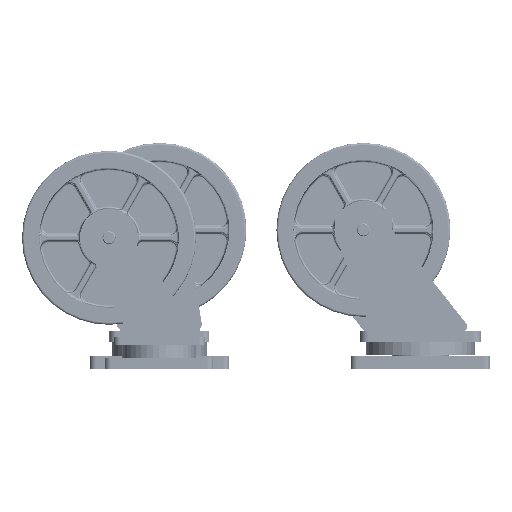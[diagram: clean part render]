
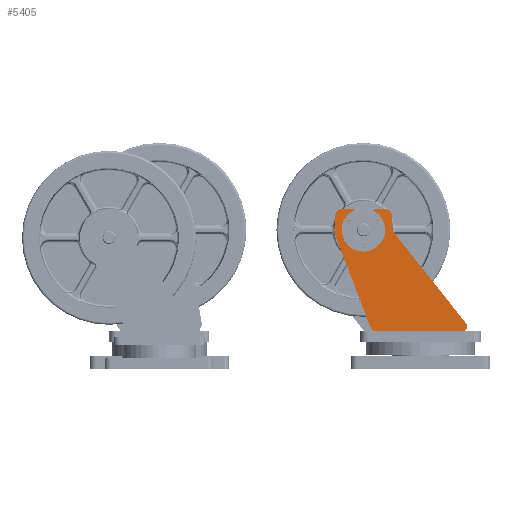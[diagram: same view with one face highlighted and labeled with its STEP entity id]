
A CAD part, left-side view. The second image highlights one B-rep face of the part: STEP entity #5405.
In plain terms, the highlighted planar face has unit normal (-1, 0, 0).
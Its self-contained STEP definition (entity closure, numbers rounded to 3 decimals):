
#2591=FACE_BOUND('',#12141,.T.);
#2592=FACE_BOUND('',#12142,.T.);
#2593=FACE_BOUND('',#12143,.T.);
#2594=FACE_BOUND('',#12144,.T.);
#3551=PLANE('',#51509);
#5405=ADVANCED_FACE('',(#2591,#2592,#2593,#2594),#3551,.T.);
#12141=EDGE_LOOP('',(#25133));
#12142=EDGE_LOOP('',(#25134));
#12143=EDGE_LOOP('',(#25135));
#12144=EDGE_LOOP('',(#25136,#25137,#25138,#25139,#25140,#25141,#25142,#25143,
#25144,#25145,#25146,#25147,#25148,#25149,#25150,#25151,#25152,#25153,#25154));
#15214=CIRCLE('',#51497,3.4);
#15215=CIRCLE('',#51498,3.4);
#15216=CIRCLE('',#51499,3.4);
#15217=CIRCLE('',#51500,10.);
#15218=CIRCLE('',#51501,10.);
#15219=CIRCLE('',#51502,20.);
#15220=CIRCLE('',#51503,15.);
#15221=CIRCLE('',#51504,10.);
#15222=CIRCLE('',#51505,20.2);
#15223=CIRCLE('',#51506,5.);
#15224=CIRCLE('',#51507,15.);
#15225=CIRCLE('',#51508,20.);
#25133=ORIENTED_EDGE('',*,*,#41167,.T.);
#25134=ORIENTED_EDGE('',*,*,#41168,.T.);
#25135=ORIENTED_EDGE('',*,*,#41169,.T.);
#25136=ORIENTED_EDGE('',*,*,#41170,.F.);
#25137=ORIENTED_EDGE('',*,*,#41144,.T.);
#25138=ORIENTED_EDGE('',*,*,#41171,.T.);
#25139=ORIENTED_EDGE('',*,*,#41172,.T.);
#25140=ORIENTED_EDGE('',*,*,#41173,.T.);
#25141=ORIENTED_EDGE('',*,*,#41174,.T.);
#25142=ORIENTED_EDGE('',*,*,#41175,.F.);
#25143=ORIENTED_EDGE('',*,*,#41176,.F.);
#25144=ORIENTED_EDGE('',*,*,#41177,.F.);
#25145=ORIENTED_EDGE('',*,*,#41178,.T.);
#25146=ORIENTED_EDGE('',*,*,#41179,.F.);
#25147=ORIENTED_EDGE('',*,*,#41180,.T.);
#25148=ORIENTED_EDGE('',*,*,#41181,.T.);
#25149=ORIENTED_EDGE('',*,*,#41182,.T.);
#25150=ORIENTED_EDGE('',*,*,#41183,.F.);
#25151=ORIENTED_EDGE('',*,*,#41184,.T.);
#25152=ORIENTED_EDGE('',*,*,#41185,.F.);
#25153=ORIENTED_EDGE('',*,*,#41186,.T.);
#25154=ORIENTED_EDGE('',*,*,#41187,.F.);
#35622=VERTEX_POINT('',#131125);
#35623=VERTEX_POINT('',#131127);
#35644=VERTEX_POINT('',#131173);
#35645=VERTEX_POINT('',#131175);
#35646=VERTEX_POINT('',#131177);
#35647=VERTEX_POINT('',#131179);
#35648=VERTEX_POINT('',#131181);
#35649=VERTEX_POINT('',#131183);
#35650=VERTEX_POINT('',#131185);
#35651=VERTEX_POINT('',#131187);
#35652=VERTEX_POINT('',#131189);
#35653=VERTEX_POINT('',#131191);
#35654=VERTEX_POINT('',#131193);
#35655=VERTEX_POINT('',#131195);
#35656=VERTEX_POINT('',#131197);
#35657=VERTEX_POINT('',#131199);
#35658=VERTEX_POINT('',#131201);
#35659=VERTEX_POINT('',#131203);
#35660=VERTEX_POINT('',#131205);
#35661=VERTEX_POINT('',#131207);
#35662=VERTEX_POINT('',#131209);
#35663=VERTEX_POINT('',#131211);
#41144=EDGE_CURVE('',#35623,#35622,#46223,.T.);
#41167=EDGE_CURVE('',#35644,#35644,#15214,.T.);
#41168=EDGE_CURVE('',#35645,#35645,#15215,.T.);
#41169=EDGE_CURVE('',#35646,#35646,#15216,.T.);
#41170=EDGE_CURVE('',#35623,#35647,#46234,.T.);
#41171=EDGE_CURVE('',#35622,#35648,#15217,.T.);
#41172=EDGE_CURVE('',#35648,#35649,#46235,.T.);
#41173=EDGE_CURVE('',#35649,#35650,#15218,.T.);
#41174=EDGE_CURVE('',#35650,#35651,#46236,.T.);
#41175=EDGE_CURVE('',#35652,#35651,#15219,.T.);
#41176=EDGE_CURVE('',#35653,#35652,#46237,.T.);
#41177=EDGE_CURVE('',#35654,#35653,#15220,.T.);
#41178=EDGE_CURVE('',#35654,#35655,#46238,.T.);
#41179=EDGE_CURVE('',#35656,#35655,#15221,.T.);
#41180=EDGE_CURVE('',#35656,#35657,#46239,.T.);
#41181=EDGE_CURVE('',#35657,#35658,#15222,.T.);
#41182=EDGE_CURVE('',#35658,#35659,#46240,.T.);
#41183=EDGE_CURVE('',#35660,#35659,#15223,.T.);
#41184=EDGE_CURVE('',#35660,#35661,#46241,.T.);
#41185=EDGE_CURVE('',#35662,#35661,#15224,.T.);
#41186=EDGE_CURVE('',#35662,#35663,#46242,.T.);
#41187=EDGE_CURVE('',#35647,#35663,#15225,.T.);
#46223=LINE('',#131126,#48350);
#46234=LINE('',#131178,#48361);
#46235=LINE('',#131182,#48362);
#46236=LINE('',#131186,#48363);
#46237=LINE('',#131190,#48364);
#46238=LINE('',#131194,#48365);
#46239=LINE('',#131198,#48366);
#46240=LINE('',#131202,#48367);
#46241=LINE('',#131206,#48368);
#46242=LINE('',#131210,#48369);
#48350=VECTOR('',#57958,1.);
#48361=VECTOR('',#58003,1.);
#48362=VECTOR('',#58006,1.);
#48363=VECTOR('',#58009,1.);
#48364=VECTOR('',#58012,1.);
#48365=VECTOR('',#58015,1.);
#48366=VECTOR('',#58018,1.);
#48367=VECTOR('',#58021,1.);
#48368=VECTOR('',#58024,1.);
#48369=VECTOR('',#58027,1.);
#51497=AXIS2_PLACEMENT_3D('',#131172,#57997,#57998);
#51498=AXIS2_PLACEMENT_3D('',#131174,#57999,#58000);
#51499=AXIS2_PLACEMENT_3D('',#131176,#58001,#58002);
#51500=AXIS2_PLACEMENT_3D('',#131180,#58004,#58005);
#51501=AXIS2_PLACEMENT_3D('',#131184,#58007,#58008);
#51502=AXIS2_PLACEMENT_3D('',#131188,#58010,#58011);
#51503=AXIS2_PLACEMENT_3D('',#131192,#58013,#58014);
#51504=AXIS2_PLACEMENT_3D('',#131196,#58016,#58017);
#51505=AXIS2_PLACEMENT_3D('',#131200,#58019,#58020);
#51506=AXIS2_PLACEMENT_3D('',#131204,#58022,#58023);
#51507=AXIS2_PLACEMENT_3D('',#131208,#58025,#58026);
#51508=AXIS2_PLACEMENT_3D('',#131212,#58028,#58029);
#51509=AXIS2_PLACEMENT_3D('',#131213,#58030,#58031);
#57958=DIRECTION('',(0.,-0.423,-0.906));
#57997=DIRECTION('',(1.,0.,0.));
#57998=DIRECTION('',(0.,-1.,0.));
#57999=DIRECTION('',(1.,0.,0.));
#58000=DIRECTION('',(0.,-1.,0.));
#58001=DIRECTION('',(1.,0.,0.));
#58002=DIRECTION('',(0.,-1.,0.));
#58003=DIRECTION('',(0.,0.358,0.934));
#58004=DIRECTION('',(-1.,0.,0.));
#58005=DIRECTION('',(0.,0.,1.));
#58006=DIRECTION('',(0.,-1.,0.));
#58007=DIRECTION('',(-1.,0.,0.));
#58008=DIRECTION('',(0.,0.,1.));
#58009=DIRECTION('',(0.,0.623,0.782));
#58010=DIRECTION('',(-1.,0.,0.));
#58011=DIRECTION('',(0.,0.,-1.));
#58012=DIRECTION('',(0.,0.,-1.));
#58013=DIRECTION('',(1.,0.,0.));
#58014=DIRECTION('',(0.,0.,1.));
#58015=DIRECTION('',(0.,1.,0.));
#58016=DIRECTION('',(1.,0.,0.));
#58017=DIRECTION('',(0.,0.,-1.));
#58018=DIRECTION('',(0.,0.,-1.));
#58019=DIRECTION('',(1.,0.,0.));
#58020=DIRECTION('',(0.,0.,-1.));
#58021=DIRECTION('',(0.,0.,1.));
#58022=DIRECTION('',(1.,0.,0.));
#58023=DIRECTION('',(0.,0.,-1.));
#58024=DIRECTION('',(0.,1.,0.));
#58025=DIRECTION('',(1.,0.,0.));
#58026=DIRECTION('',(0.,0.,1.));
#58027=DIRECTION('',(0.,0.,-1.));
#58028=DIRECTION('',(1.,0.,0.));
#58029=DIRECTION('',(0.,0.,-1.));
#58030=DIRECTION('',(-1.,0.,0.));
#58031=DIRECTION('',(0.,1.,0.));
#131125=CARTESIAN_POINT('',(167.99,-236.688,29.774));
#131126=CARTESIAN_POINT('',(167.99,-154.278,206.504));
#131127=CARTESIAN_POINT('',(167.99,-236.539,30.094));
#131172=CARTESIAN_POINT('',(167.99,-252.108,274.75));
#131173=CARTESIAN_POINT('',(167.99,-255.508,274.75));
#131174=CARTESIAN_POINT('',(167.99,-219.632,218.5));
#131175=CARTESIAN_POINT('',(167.99,-223.032,218.5));
#131176=CARTESIAN_POINT('',(167.99,-187.156,274.75));
#131177=CARTESIAN_POINT('',(167.99,-190.556,274.75));
#131178=CARTESIAN_POINT('',(167.99,-158.931,232.755));
#131179=CARTESIAN_POINT('',(167.99,-155.955,240.526));
#131180=CARTESIAN_POINT('',(167.99,-245.751,34.));
#131181=CARTESIAN_POINT('',(167.99,-245.751,24.));
#131182=CARTESIAN_POINT('',(167.99,-219.632,24.));
#131183=CARTESIAN_POINT('',(167.99,-448.637,24.));
#131184=CARTESIAN_POINT('',(167.99,-448.637,34.));
#131185=CARTESIAN_POINT('',(167.99,-456.927,39.592));
#131186=CARTESIAN_POINT('',(167.99,-259.415,287.673));
#131187=CARTESIAN_POINT('',(167.99,-288.985,250.532));
#131188=CARTESIAN_POINT('',(167.99,-304.632,262.989));
#131189=CARTESIAN_POINT('',(167.99,-284.632,262.989));
#131190=CARTESIAN_POINT('',(167.99,-284.632,256.));
#131191=CARTESIAN_POINT('',(167.99,-284.632,288.6));
#131192=CARTESIAN_POINT('',(167.99,-269.632,288.6));
#131193=CARTESIAN_POINT('',(167.99,-269.632,303.6));
#131194=CARTESIAN_POINT('',(167.99,-309.732,303.6));
#131195=CARTESIAN_POINT('',(167.99,-249.832,303.6));
#131196=CARTESIAN_POINT('',(167.99,-249.832,293.6));
#131197=CARTESIAN_POINT('',(167.99,-239.832,293.6));
#131198=CARTESIAN_POINT('',(167.99,-239.832,310.6));
#131199=CARTESIAN_POINT('',(167.99,-239.832,256.));
#131200=CARTESIAN_POINT('',(167.99,-219.632,256.));
#131201=CARTESIAN_POINT('',(167.99,-199.432,256.));
#131202=CARTESIAN_POINT('',(167.99,-199.432,256.));
#131203=CARTESIAN_POINT('',(167.99,-199.432,298.6));
#131204=CARTESIAN_POINT('',(167.99,-194.432,298.6));
#131205=CARTESIAN_POINT('',(167.99,-194.432,303.6));
#131206=CARTESIAN_POINT('',(167.99,-187.432,303.6));
#131207=CARTESIAN_POINT('',(167.99,-169.632,303.6));
#131208=CARTESIAN_POINT('',(167.99,-169.632,288.6));
#131209=CARTESIAN_POINT('',(167.99,-154.632,288.6));
#131210=CARTESIAN_POINT('',(167.99,-154.632,256.));
#131211=CARTESIAN_POINT('',(167.99,-154.632,247.678));
#131212=CARTESIAN_POINT('',(167.99,-174.632,247.678));
#131213=CARTESIAN_POINT('',(167.99,-219.632,256.));
